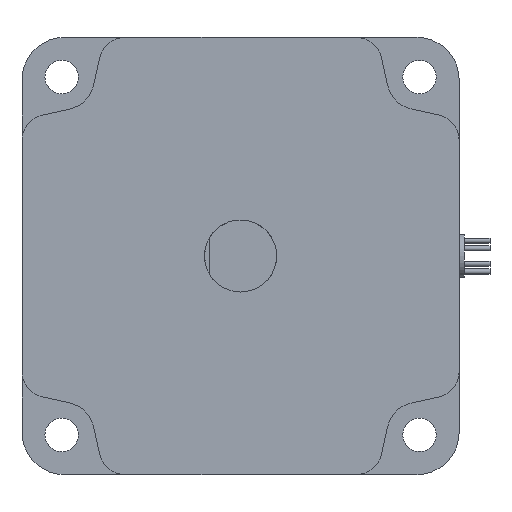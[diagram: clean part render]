
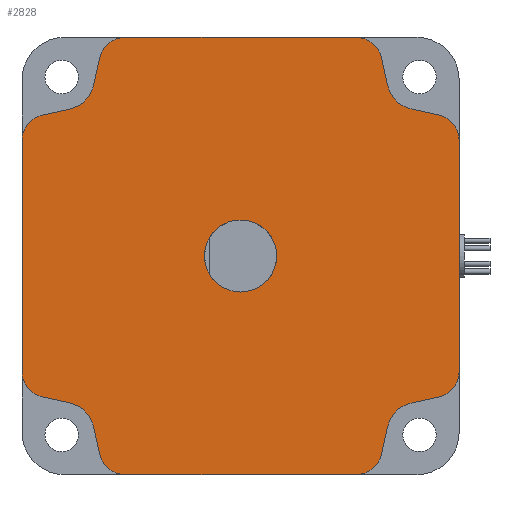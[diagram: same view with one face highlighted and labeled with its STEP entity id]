
A CAD part, left-side view. The second image highlights one B-rep face of the part: STEP entity #2828.
In plain terms, the highlighted planar face has unit normal (-1, 0, 0).
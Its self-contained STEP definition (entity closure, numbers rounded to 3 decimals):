
#41=CIRCLE('',#3000,7.);
#79=CIRCLE('',#3065,5.);
#80=CIRCLE('',#3066,6.);
#81=CIRCLE('',#3067,5.);
#82=CIRCLE('',#3068,5.);
#83=CIRCLE('',#3069,6.);
#84=CIRCLE('',#3070,5.);
#85=CIRCLE('',#3071,5.);
#86=CIRCLE('',#3072,6.);
#87=CIRCLE('',#3073,5.);
#88=CIRCLE('',#3074,5.);
#89=CIRCLE('',#3075,6.);
#90=CIRCLE('',#3076,5.);
#541=ORIENTED_EDGE('',*,*,#1156,.F.);
#542=ORIENTED_EDGE('',*,*,#1256,.F.);
#543=ORIENTED_EDGE('',*,*,#1257,.F.);
#544=ORIENTED_EDGE('',*,*,#1258,.T.);
#545=ORIENTED_EDGE('',*,*,#1259,.F.);
#546=ORIENTED_EDGE('',*,*,#1260,.F.);
#547=ORIENTED_EDGE('',*,*,#1261,.F.);
#548=ORIENTED_EDGE('',*,*,#1262,.F.);
#549=ORIENTED_EDGE('',*,*,#1263,.F.);
#550=ORIENTED_EDGE('',*,*,#1264,.T.);
#551=ORIENTED_EDGE('',*,*,#1265,.F.);
#552=ORIENTED_EDGE('',*,*,#1266,.F.);
#553=ORIENTED_EDGE('',*,*,#1267,.F.);
#554=ORIENTED_EDGE('',*,*,#1268,.F.);
#555=ORIENTED_EDGE('',*,*,#1269,.F.);
#556=ORIENTED_EDGE('',*,*,#1270,.T.);
#557=ORIENTED_EDGE('',*,*,#1271,.F.);
#558=ORIENTED_EDGE('',*,*,#1272,.F.);
#559=ORIENTED_EDGE('',*,*,#1273,.F.);
#560=ORIENTED_EDGE('',*,*,#1274,.F.);
#561=ORIENTED_EDGE('',*,*,#1275,.F.);
#562=ORIENTED_EDGE('',*,*,#1276,.T.);
#563=ORIENTED_EDGE('',*,*,#1277,.F.);
#564=ORIENTED_EDGE('',*,*,#1278,.F.);
#565=ORIENTED_EDGE('',*,*,#1279,.F.);
#1156=EDGE_CURVE('',#1550,#1550,#41,.F.);
#1256=EDGE_CURVE('',#1625,#1626,#79,.T.);
#1257=EDGE_CURVE('',#1627,#1625,#1897,.T.);
#1258=EDGE_CURVE('',#1627,#1628,#80,.T.);
#1259=EDGE_CURVE('',#1629,#1628,#1898,.T.);
#1260=EDGE_CURVE('',#1630,#1629,#81,.T.);
#1261=EDGE_CURVE('',#1631,#1630,#1899,.T.);
#1262=EDGE_CURVE('',#1632,#1631,#82,.T.);
#1263=EDGE_CURVE('',#1633,#1632,#1900,.T.);
#1264=EDGE_CURVE('',#1633,#1634,#83,.T.);
#1265=EDGE_CURVE('',#1635,#1634,#1901,.T.);
#1266=EDGE_CURVE('',#1636,#1635,#84,.T.);
#1267=EDGE_CURVE('',#1637,#1636,#1902,.T.);
#1268=EDGE_CURVE('',#1638,#1637,#85,.T.);
#1269=EDGE_CURVE('',#1639,#1638,#1903,.T.);
#1270=EDGE_CURVE('',#1639,#1640,#86,.T.);
#1271=EDGE_CURVE('',#1641,#1640,#1904,.T.);
#1272=EDGE_CURVE('',#1642,#1641,#87,.T.);
#1273=EDGE_CURVE('',#1643,#1642,#1905,.T.);
#1274=EDGE_CURVE('',#1644,#1643,#88,.T.);
#1275=EDGE_CURVE('',#1645,#1644,#1906,.T.);
#1276=EDGE_CURVE('',#1645,#1646,#89,.T.);
#1277=EDGE_CURVE('',#1647,#1646,#1907,.T.);
#1278=EDGE_CURVE('',#1648,#1647,#90,.T.);
#1279=EDGE_CURVE('',#1626,#1648,#1908,.T.);
#1550=VERTEX_POINT('',#4306);
#1625=VERTEX_POINT('',#4508);
#1626=VERTEX_POINT('',#4509);
#1627=VERTEX_POINT('',#4511);
#1628=VERTEX_POINT('',#4513);
#1629=VERTEX_POINT('',#4515);
#1630=VERTEX_POINT('',#4517);
#1631=VERTEX_POINT('',#4519);
#1632=VERTEX_POINT('',#4521);
#1633=VERTEX_POINT('',#4523);
#1634=VERTEX_POINT('',#4525);
#1635=VERTEX_POINT('',#4527);
#1636=VERTEX_POINT('',#4529);
#1637=VERTEX_POINT('',#4531);
#1638=VERTEX_POINT('',#4533);
#1639=VERTEX_POINT('',#4535);
#1640=VERTEX_POINT('',#4537);
#1641=VERTEX_POINT('',#4539);
#1642=VERTEX_POINT('',#4541);
#1643=VERTEX_POINT('',#4543);
#1644=VERTEX_POINT('',#4545);
#1645=VERTEX_POINT('',#4547);
#1646=VERTEX_POINT('',#4549);
#1647=VERTEX_POINT('',#4551);
#1648=VERTEX_POINT('',#4553);
#1897=LINE('',#4510,#2161);
#1898=LINE('',#4514,#2162);
#1899=LINE('',#4518,#2163);
#1900=LINE('',#4522,#2164);
#1901=LINE('',#4526,#2165);
#1902=LINE('',#4530,#2166);
#1903=LINE('',#4534,#2167);
#1904=LINE('',#4538,#2168);
#1905=LINE('',#4542,#2169);
#1906=LINE('',#4546,#2170);
#1907=LINE('',#4550,#2171);
#1908=LINE('',#4554,#2172);
#2161=VECTOR('',#3609,1000.);
#2162=VECTOR('',#3612,1000.);
#2163=VECTOR('',#3615,1000.);
#2164=VECTOR('',#3618,1000.);
#2165=VECTOR('',#3621,1000.);
#2166=VECTOR('',#3624,1000.);
#2167=VECTOR('',#3627,1000.);
#2168=VECTOR('',#3630,1000.);
#2169=VECTOR('',#3633,1000.);
#2170=VECTOR('',#3636,1000.);
#2171=VECTOR('',#3639,1000.);
#2172=VECTOR('',#3642,1000.);
#2369=EDGE_LOOP('',(#541));
#2370=EDGE_LOOP('',(#542,#543,#544,#545,#546,#547,#548,#549,#550,#551,#552,
#553,#554,#555,#556,#557,#558,#559,#560,#561,#562,#563,#564,#565));
#2559=FACE_BOUND('',#2369,.T.);
#2560=FACE_BOUND('',#2370,.T.);
#2721=PLANE('',#3064);
#2828=ADVANCED_FACE('',(#2559,#2560),#2721,.F.);
#3000=AXIS2_PLACEMENT_3D('',#4305,#3415,#3416);
#3064=AXIS2_PLACEMENT_3D('',#4506,#3605,#3606);
#3065=AXIS2_PLACEMENT_3D('',#4507,#3607,#3608);
#3066=AXIS2_PLACEMENT_3D('',#4512,#3610,#3611);
#3067=AXIS2_PLACEMENT_3D('',#4516,#3613,#3614);
#3068=AXIS2_PLACEMENT_3D('',#4520,#3616,#3617);
#3069=AXIS2_PLACEMENT_3D('',#4524,#3619,#3620);
#3070=AXIS2_PLACEMENT_3D('',#4528,#3622,#3623);
#3071=AXIS2_PLACEMENT_3D('',#4532,#3625,#3626);
#3072=AXIS2_PLACEMENT_3D('',#4536,#3628,#3629);
#3073=AXIS2_PLACEMENT_3D('',#4540,#3631,#3632);
#3074=AXIS2_PLACEMENT_3D('',#4544,#3634,#3635);
#3075=AXIS2_PLACEMENT_3D('',#4548,#3637,#3638);
#3076=AXIS2_PLACEMENT_3D('',#4552,#3640,#3641);
#3415=DIRECTION('',(1.,0.,0.));
#3416=DIRECTION('',(0.,0.,-1.));
#3605=DIRECTION('',(1.,0.,0.));
#3606=DIRECTION('',(0.,0.,-1.));
#3607=DIRECTION('',(1.,0.,0.));
#3608=DIRECTION('',(0.,0.,-1.));
#3609=DIRECTION('',(0.,-0.219,0.976));
#3610=DIRECTION('',(1.,0.,0.));
#3611=DIRECTION('',(0.,0.,-1.));
#3612=DIRECTION('',(0.,-0.976,0.219));
#3613=DIRECTION('',(1.,0.,0.));
#3614=DIRECTION('',(0.,0.,-1.));
#3615=DIRECTION('',(0.,0.,1.));
#3616=DIRECTION('',(1.,0.,0.));
#3617=DIRECTION('',(0.,0.,-1.));
#3618=DIRECTION('',(0.,0.976,0.219));
#3619=DIRECTION('',(1.,0.,0.));
#3620=DIRECTION('',(0.,0.,-1.));
#3621=DIRECTION('',(0.,0.219,0.976));
#3622=DIRECTION('',(1.,0.,0.));
#3623=DIRECTION('',(0.,0.,-1.));
#3624=DIRECTION('',(0.,1.,0.));
#3625=DIRECTION('',(1.,0.,0.));
#3626=DIRECTION('',(0.,0.,-1.));
#3627=DIRECTION('',(0.,0.219,-0.976));
#3628=DIRECTION('',(1.,0.,0.));
#3629=DIRECTION('',(0.,0.,-1.));
#3630=DIRECTION('',(0.,0.976,-0.219));
#3631=DIRECTION('',(1.,0.,0.));
#3632=DIRECTION('',(0.,0.,-1.));
#3633=DIRECTION('',(0.,0.,-1.));
#3634=DIRECTION('',(1.,0.,0.));
#3635=DIRECTION('',(0.,0.,-1.));
#3636=DIRECTION('',(0.,-0.976,-0.219));
#3637=DIRECTION('',(1.,0.,0.));
#3638=DIRECTION('',(0.,0.,-1.));
#3639=DIRECTION('',(0.,-0.219,-0.976));
#3640=DIRECTION('',(1.,0.,0.));
#3641=DIRECTION('',(0.,0.,-1.));
#3642=DIRECTION('',(0.,-1.,0.));
#4305=CARTESIAN_POINT('',(-126.,0.,0.));
#4306=CARTESIAN_POINT('',(-126.,0.,-7.));
#4506=CARTESIAN_POINT('',(-126.,-34.3,34.3));
#4507=CARTESIAN_POINT('',(-126.,22.5,37.5));
#4508=CARTESIAN_POINT('',(-126.,27.379,38.595));
#4509=CARTESIAN_POINT('',(-126.,22.5,42.5));
#4510=CARTESIAN_POINT('',(-126.,25.337,47.689));
#4511=CARTESIAN_POINT('',(-126.,28.603,33.143));
#4512=CARTESIAN_POINT('',(-126.,34.457,34.457));
#4513=CARTESIAN_POINT('',(-126.,33.143,28.603));
#4514=CARTESIAN_POINT('',(-126.,-32.281,43.291));
#4515=CARTESIAN_POINT('',(-126.,38.595,27.379));
#4516=CARTESIAN_POINT('',(-126.,37.5,22.5));
#4517=CARTESIAN_POINT('',(-126.,42.5,22.5));
#4518=CARTESIAN_POINT('',(-126.,42.5,-34.3));
#4519=CARTESIAN_POINT('',(-126.,42.5,-22.5));
#4520=CARTESIAN_POINT('',(-126.,37.5,-22.5));
#4521=CARTESIAN_POINT('',(-126.,38.595,-27.379));
#4522=CARTESIAN_POINT('',(-126.,-17.619,-39.999));
#4523=CARTESIAN_POINT('',(-126.,33.143,-28.603));
#4524=CARTESIAN_POINT('',(-126.,34.457,-34.457));
#4525=CARTESIAN_POINT('',(-126.,28.603,-33.143));
#4526=CARTESIAN_POINT('',(-126.,39.999,17.619));
#4527=CARTESIAN_POINT('',(-126.,27.379,-38.595));
#4528=CARTESIAN_POINT('',(-126.,22.5,-37.5));
#4529=CARTESIAN_POINT('',(-126.,22.5,-42.5));
#4530=CARTESIAN_POINT('',(-126.,-34.3,-42.5));
#4531=CARTESIAN_POINT('',(-126.,-22.5,-42.5));
#4532=CARTESIAN_POINT('',(-126.,-22.5,-37.5));
#4533=CARTESIAN_POINT('',(-126.,-27.379,-38.595));
#4534=CARTESIAN_POINT('',(-126.,-43.291,32.281));
#4535=CARTESIAN_POINT('',(-126.,-28.603,-33.143));
#4536=CARTESIAN_POINT('',(-126.,-34.457,-34.457));
#4537=CARTESIAN_POINT('',(-126.,-33.143,-28.603));
#4538=CARTESIAN_POINT('',(-126.,-47.689,-25.337));
#4539=CARTESIAN_POINT('',(-126.,-38.595,-27.379));
#4540=CARTESIAN_POINT('',(-126.,-37.5,-22.5));
#4541=CARTESIAN_POINT('',(-126.,-42.5,-22.5));
#4542=CARTESIAN_POINT('',(-126.,-42.5,34.3));
#4543=CARTESIAN_POINT('',(-126.,-42.5,22.5));
#4544=CARTESIAN_POINT('',(-126.,-37.5,22.5));
#4545=CARTESIAN_POINT('',(-126.,-38.595,27.379));
#4546=CARTESIAN_POINT('',(-126.,-33.027,28.629));
#4547=CARTESIAN_POINT('',(-126.,-33.143,28.603));
#4548=CARTESIAN_POINT('',(-126.,-34.457,34.457));
#4549=CARTESIAN_POINT('',(-126.,-28.603,33.143));
#4550=CARTESIAN_POINT('',(-126.,-28.629,33.027));
#4551=CARTESIAN_POINT('',(-126.,-27.379,38.595));
#4552=CARTESIAN_POINT('',(-126.,-22.5,37.5));
#4553=CARTESIAN_POINT('',(-126.,-22.5,42.5));
#4554=CARTESIAN_POINT('',(-126.,34.3,42.5));
